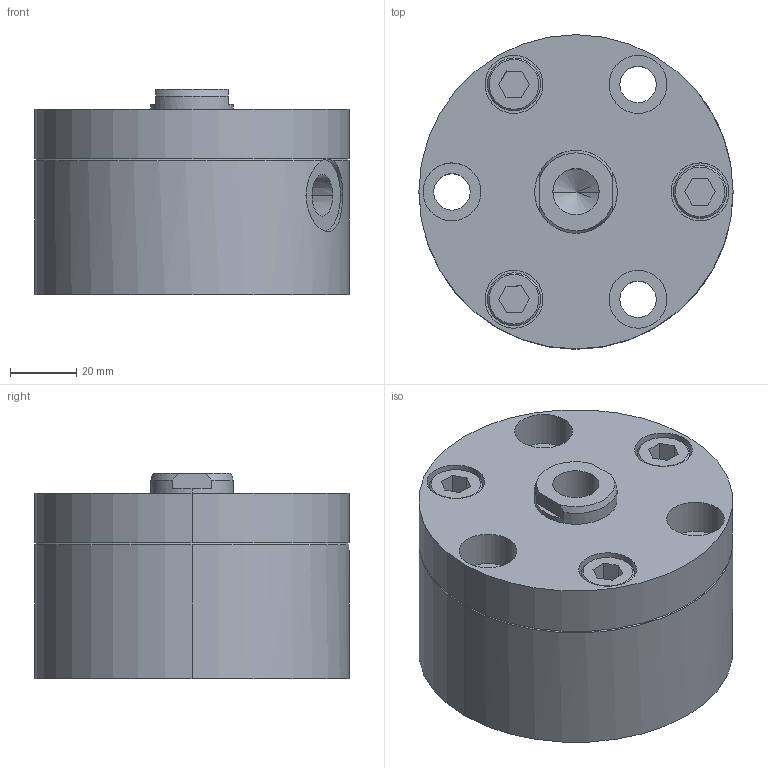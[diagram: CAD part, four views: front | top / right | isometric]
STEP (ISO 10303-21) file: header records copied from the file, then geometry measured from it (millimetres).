
FILE_DESCRIPTION (( 'STEP AP203' ), '1' );
FILE_NAME ('4360 521.STEP', '2016-01-28T12:19:57', ( '' ), ( '' ), 'SwSTEP 2.0', 'SolidWorks 2015', '' );
FILE_SCHEMA (( 'CONFIG_CONTROL_DESIGN' ));
Length unit declared in the file: millimetre
Products named in the file (1): 4360 521
Bounding box: 95 x 95 x 62 mm (x, y, z)
Volume: 358680.5 mm3; surface area: 45623.1 mm2
Topology: 1 solids, 1 shells, 112 faces, 255 edges, 162 vertices
Faces by surface type: cylinder 46, plane 45, cone 21
Entity records: 3405 total; most frequent: CARTESIAN_POINT 733, DIRECTION 576, ORIENTED_EDGE 498, EDGE_CURVE 249, AXIS2_PLACEMENT_3D 225, VERTEX_POINT 162, EDGE_LOOP 141, LINE 126
